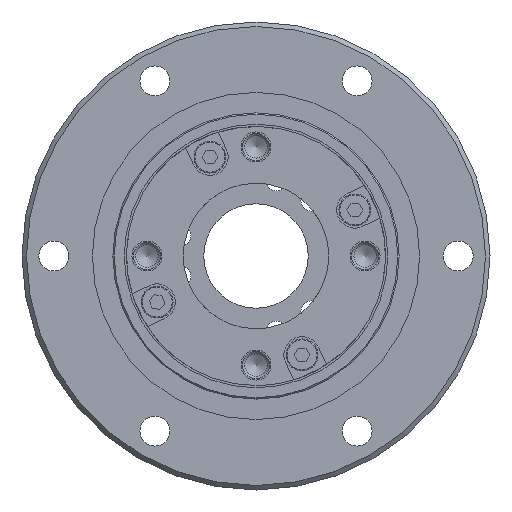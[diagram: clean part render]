
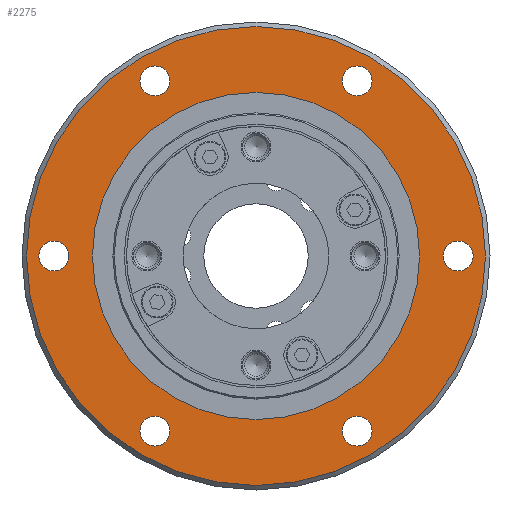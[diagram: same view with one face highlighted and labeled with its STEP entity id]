
A CAD part, left-side view. The second image highlights one B-rep face of the part: STEP entity #2275.
In plain terms, the highlighted planar face has unit normal (-1, 0, 0).
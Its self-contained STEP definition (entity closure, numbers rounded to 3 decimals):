
#89=PLANE('',#2562);
#226=CIRCLE('',#2563,50.5);
#227=CIRCLE('',#2564,3.3);
#228=CIRCLE('',#2565,3.3);
#229=CIRCLE('',#2566,3.3);
#230=CIRCLE('',#2567,3.3);
#231=CIRCLE('',#2568,3.3);
#232=CIRCLE('',#2569,3.3);
#233=CIRCLE('',#2570,36.);
#500=ORIENTED_EDGE('',*,*,#967,.F.);
#501=ORIENTED_EDGE('',*,*,#968,.T.);
#502=ORIENTED_EDGE('',*,*,#969,.T.);
#503=ORIENTED_EDGE('',*,*,#970,.T.);
#504=ORIENTED_EDGE('',*,*,#971,.T.);
#505=ORIENTED_EDGE('',*,*,#972,.T.);
#506=ORIENTED_EDGE('',*,*,#973,.T.);
#507=ORIENTED_EDGE('',*,*,#974,.T.);
#967=EDGE_CURVE('',#1226,#1226,#226,.T.);
#968=EDGE_CURVE('',#1227,#1227,#227,.T.);
#969=EDGE_CURVE('',#1228,#1228,#228,.T.);
#970=EDGE_CURVE('',#1229,#1229,#229,.T.);
#971=EDGE_CURVE('',#1230,#1230,#230,.T.);
#972=EDGE_CURVE('',#1231,#1231,#231,.T.);
#973=EDGE_CURVE('',#1232,#1232,#232,.T.);
#974=EDGE_CURVE('',#1233,#1233,#233,.T.);
#1226=VERTEX_POINT('',#3852);
#1227=VERTEX_POINT('',#3854);
#1228=VERTEX_POINT('',#3856);
#1229=VERTEX_POINT('',#3858);
#1230=VERTEX_POINT('',#3860);
#1231=VERTEX_POINT('',#3862);
#1232=VERTEX_POINT('',#3864);
#1233=VERTEX_POINT('',#3866);
#1675=EDGE_LOOP('',(#500));
#1676=EDGE_LOOP('',(#501));
#1677=EDGE_LOOP('',(#502));
#1678=EDGE_LOOP('',(#503));
#1679=EDGE_LOOP('',(#504));
#1680=EDGE_LOOP('',(#505));
#1681=EDGE_LOOP('',(#506));
#1682=EDGE_LOOP('',(#507));
#1969=FACE_BOUND('',#1675,.T.);
#1970=FACE_BOUND('',#1676,.T.);
#1971=FACE_BOUND('',#1677,.T.);
#1972=FACE_BOUND('',#1678,.T.);
#1973=FACE_BOUND('',#1679,.T.);
#1974=FACE_BOUND('',#1680,.T.);
#1975=FACE_BOUND('',#1681,.T.);
#1976=FACE_BOUND('',#1682,.T.);
#2275=ADVANCED_FACE('',(#1969,#1970,#1971,#1972,#1973,#1974,#1975,#1976),
#89,.F.);
#2562=AXIS2_PLACEMENT_3D('',#3850,#3069,#3070);
#2563=AXIS2_PLACEMENT_3D('',#3851,#3071,#3072);
#2564=AXIS2_PLACEMENT_3D('',#3853,#3073,#3074);
#2565=AXIS2_PLACEMENT_3D('',#3855,#3075,#3076);
#2566=AXIS2_PLACEMENT_3D('',#3857,#3077,#3078);
#2567=AXIS2_PLACEMENT_3D('',#3859,#3079,#3080);
#2568=AXIS2_PLACEMENT_3D('',#3861,#3081,#3082);
#2569=AXIS2_PLACEMENT_3D('',#3863,#3083,#3084);
#2570=AXIS2_PLACEMENT_3D('',#3865,#3085,#3086);
#3069=DIRECTION('',(1.,0.,0.));
#3070=DIRECTION('',(0.,0.,-1.));
#3071=DIRECTION('',(1.,0.,0.));
#3072=DIRECTION('',(0.,0.,-1.));
#3073=DIRECTION('',(1.,0.,0.));
#3074=DIRECTION('',(0.,0.,-1.));
#3075=DIRECTION('',(1.,0.,0.));
#3076=DIRECTION('',(0.,0.,-1.));
#3077=DIRECTION('',(1.,0.,0.));
#3078=DIRECTION('',(0.,0.,-1.));
#3079=DIRECTION('',(1.,0.,0.));
#3080=DIRECTION('',(0.,0.,-1.));
#3081=DIRECTION('',(1.,0.,0.));
#3082=DIRECTION('',(0.,0.,-1.));
#3083=DIRECTION('',(1.,0.,0.));
#3084=DIRECTION('',(0.,0.,-1.));
#3085=DIRECTION('',(1.,0.,0.));
#3086=DIRECTION('',(0.,0.,-1.));
#3850=CARTESIAN_POINT('',(14.,31.5,0.));
#3851=CARTESIAN_POINT('',(14.,0.,0.));
#3852=CARTESIAN_POINT('',(14.,0.,-50.5));
#3853=CARTESIAN_POINT('',(14.,44.5,0.));
#3854=CARTESIAN_POINT('',(14.,44.5,-3.3));
#3855=CARTESIAN_POINT('',(14.,22.25,38.538));
#3856=CARTESIAN_POINT('',(14.,22.25,35.238));
#3857=CARTESIAN_POINT('',(14.,-22.25,38.538));
#3858=CARTESIAN_POINT('',(14.,-22.25,35.238));
#3859=CARTESIAN_POINT('',(14.,-44.5,0.));
#3860=CARTESIAN_POINT('',(14.,-44.5,-3.3));
#3861=CARTESIAN_POINT('',(14.,-22.25,-38.538));
#3862=CARTESIAN_POINT('',(14.,-22.25,-41.838));
#3863=CARTESIAN_POINT('',(14.,22.25,-38.538));
#3864=CARTESIAN_POINT('',(14.,22.25,-41.838));
#3865=CARTESIAN_POINT('',(14.,0.,0.));
#3866=CARTESIAN_POINT('',(14.,0.,-36.));
